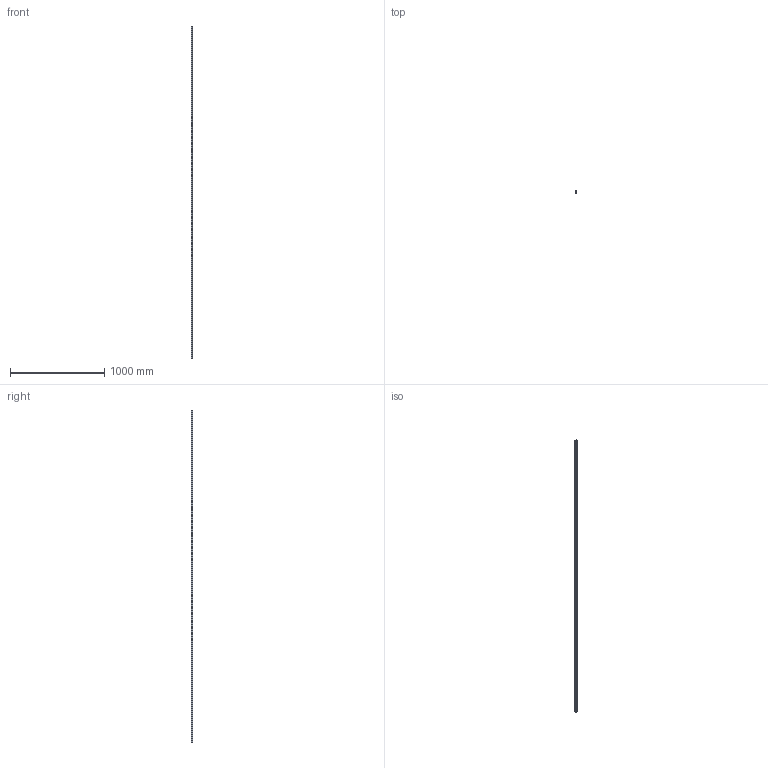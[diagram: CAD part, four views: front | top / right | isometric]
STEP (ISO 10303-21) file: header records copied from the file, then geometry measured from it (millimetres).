
FILE_DESCRIPTION (( 'STEP AP203' ), '1' );
FILE_NAME ('L1016.BL20-3520.step', '2019-06-12T11:57:26', ( '' ), ( '' ), 'SwSTEP 2.0', 'SolidWorks 2017', '' );
FILE_SCHEMA (( 'CONFIG_CONTROL_DESIGN' ));
Length unit declared in the file: millimetre
Products named in the file (1): L1016.BL20-3520
Bounding box: 20 x 16.3 x 3520 mm (x, y, z)
Volume: 978514.1 mm3; surface area: 282998.7 mm2
Topology: 1 solids, 1 shells, 321 faces, 780 edges, 520 vertices
Faces by surface type: cylinder 240, plane 81
Entity records: 9987 total; most frequent: DIRECTION 1904, CARTESIAN_POINT 1622, ORIENTED_EDGE 1560, AXIS2_PLACEMENT_3D 802, EDGE_CURVE 780, VERTEX_POINT 520, EDGE_LOOP 498, CIRCLE 480
